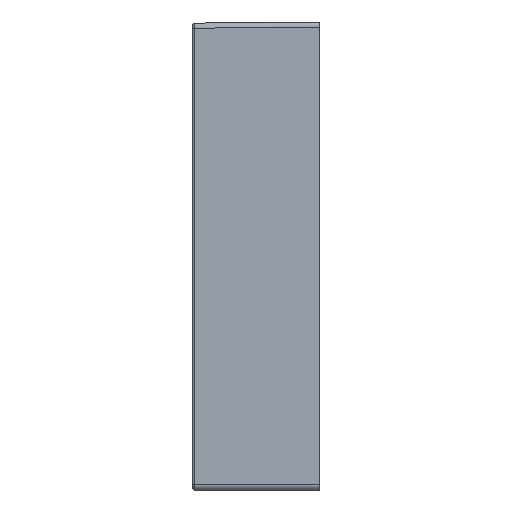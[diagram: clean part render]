
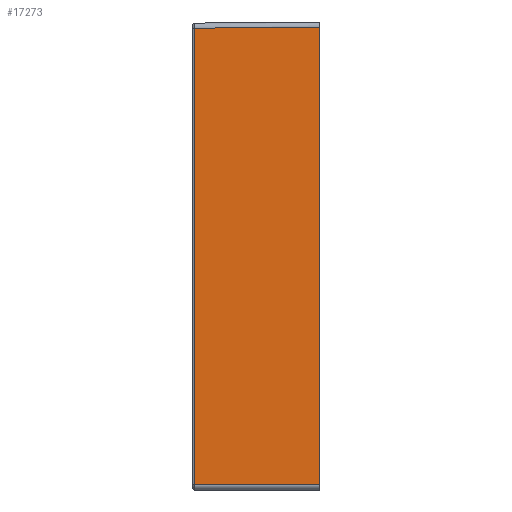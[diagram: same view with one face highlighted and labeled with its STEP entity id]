
A CAD part, left-side view. The second image highlights one B-rep face of the part: STEP entity #17273.
In plain terms, the highlighted planar face has unit normal (-1, 0.009, 0).
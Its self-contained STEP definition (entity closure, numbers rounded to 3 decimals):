
#136 = VERTEX_POINT ( 'NONE', #7387 ) ;
#2734 = DIRECTION ( 'NONE',  ( -0.009, -1., 0.009 ) ) ;
#3201 = EDGE_CURVE ( 'NONE', #25170, #136, #5194, .T. ) ;
#3653 = EDGE_CURVE ( 'NONE', #25170, #22053, #9842, .T. ) ;
#3742 = PLANE ( 'NONE',  #4781 ) ;
#4781 = AXIS2_PLACEMENT_3D ( 'NONE', #27192, #18690, #16550 ) ;
#5194 = LINE ( 'NONE', #27094, #11407 ) ;
#6331 = VERTEX_POINT ( 'NONE', #16669 ) ;
#6840 = LINE ( 'NONE', #22482, #20173 ) ;
#7387 = CARTESIAN_POINT ( 'NONE',  ( 779.164, 123.017, -205. ) ) ;
#9285 = ORIENTED_EDGE ( 'NONE', *, *, #3201, .F. ) ;
#9356 = ORIENTED_EDGE ( 'NONE', *, *, #20302, .F. ) ;
#9705 = CARTESIAN_POINT ( 'NONE',  ( 779.164, 123.017, 249. ) ) ;
#9842 = LINE ( 'NONE', #16412, #12796 ) ;
#10278 = CARTESIAN_POINT ( 'NONE',  ( 778.091, 0., 245.091 ) ) ;
#11407 = VECTOR ( 'NONE', #13871, 1000. ) ;
#11623 = CARTESIAN_POINT ( 'NONE',  ( 778.091, 0., -205. ) ) ;
#12425 = DIRECTION ( 'NONE',  ( 0., 0., 1. ) ) ;
#12531 = EDGE_CURVE ( 'NONE', #6331, #22053, #6840, .T. ) ;
#12796 = VECTOR ( 'NONE', #26763, 1000. ) ;
#13871 = DIRECTION ( 'NONE',  ( 0.009, 1., 0. ) ) ;
#14261 = FACE_OUTER_BOUND ( 'NONE', #20872, .T. ) ;
#16412 = CARTESIAN_POINT ( 'NONE',  ( 778.091, 0., 249. ) ) ;
#16550 = DIRECTION ( 'NONE',  ( 0.009, 1., 0. ) ) ;
#16573 = LINE ( 'NONE', #9705, #17144 ) ;
#16669 = CARTESIAN_POINT ( 'NONE',  ( 779.164, 123.017, 244.017 ) ) ;
#17144 = VECTOR ( 'NONE', #12425, 1000. ) ;
#17273 = ADVANCED_FACE ( 'NONE', ( #14261 ), #3742, .T. ) ;
#18690 = DIRECTION ( 'NONE',  ( -1., 0.009, 0. ) ) ;
#20173 = VECTOR ( 'NONE', #2734, 1000. ) ;
#20302 = EDGE_CURVE ( 'NONE', #136, #6331, #16573, .T. ) ;
#20872 = EDGE_LOOP ( 'NONE', ( #9285, #27537, #21301, #9356 ) ) ;
#21301 = ORIENTED_EDGE ( 'NONE', *, *, #12531, .F. ) ;
#22053 = VERTEX_POINT ( 'NONE', #10278 ) ;
#22482 = CARTESIAN_POINT ( 'NONE',  ( 778.09, -0.044, 245.091 ) ) ;
#25170 = VERTEX_POINT ( 'NONE', #11623 ) ;
#26763 = DIRECTION ( 'NONE',  ( 0., 0., 1. ) ) ;
#27094 = CARTESIAN_POINT ( 'NONE',  ( 779.182, 125., -205. ) ) ;
#27192 = CARTESIAN_POINT ( 'NONE',  ( 779.182, 125., 249. ) ) ;
#27537 = ORIENTED_EDGE ( 'NONE', *, *, #3653, .T. ) ;
